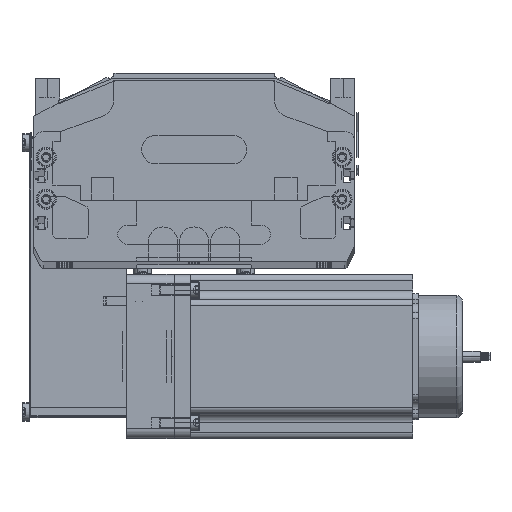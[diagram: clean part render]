
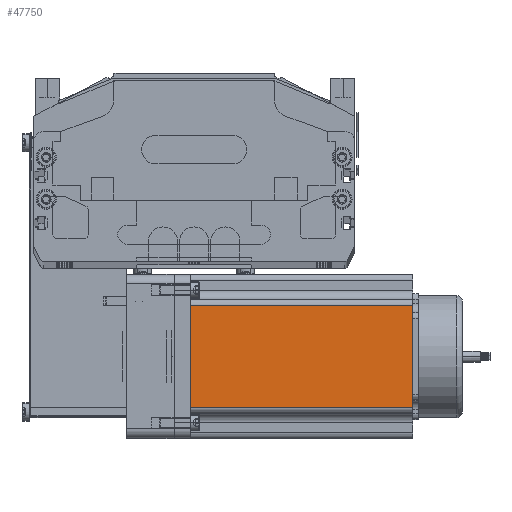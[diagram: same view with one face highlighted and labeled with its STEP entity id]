
A CAD part, top view. The second image highlights one B-rep face of the part: STEP entity #47750.
In plain terms, the highlighted planar face has unit normal (0, 0, 1) as drawn and (0, -1, 0) by its records, which use the part's own axes.
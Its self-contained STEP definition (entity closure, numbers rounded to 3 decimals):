
#25625 = AXIS2_PLACEMENT_3D ( 'NONE', #25675, #25674, #25672 ) ;
#25665 = LINE ( 'NONE', #25838, #25929 ) ;
#25672 = DIRECTION ( 'NONE',  ( 0., 0., 1. ) ) ;
#25674 = DIRECTION ( 'NONE',  ( 0., 1., 0. ) ) ;
#25675 = CARTESIAN_POINT ( 'NONE',  ( 0., 0., 116.5 ) ) ;
#25836 = PLANE ( 'NONE',  #25625 ) ;
#25838 = CARTESIAN_POINT ( 'NONE',  ( 69.74, 0., 116.5 ) ) ;
#25916 = FACE_OUTER_BOUND ( 'NONE', #47915, .T. ) ;
#25927 = DIRECTION ( 'NONE',  ( 0., 0., 1. ) ) ;
#25929 = VECTOR ( 'NONE', #25927, 1000. ) ;
#26404 = DIRECTION ( 'NONE',  ( 1., 0., 0. ) ) ;
#26417 = VECTOR ( 'NONE', #26404, 1000. ) ;
#26419 = CARTESIAN_POINT ( 'NONE',  ( 0., 0., 116.5 ) ) ;
#26420 = LINE ( 'NONE', #26419, #26417 ) ;
#26448 = CARTESIAN_POINT ( 'NONE',  ( 16.16, 0., 116.5 ) ) ;
#47750 = ADVANCED_FACE ( 'NONE', ( #25916 ), #25836, .F. ) ;
#47751 = ORIENTED_EDGE ( 'NONE', *, *, #47752, .T. ) ;
#47752 = EDGE_CURVE ( 'NONE', #47821, #47822, #25665, .T. ) ;
#47753 = ORIENTED_EDGE ( 'NONE', *, *, #47754, .F. ) ;
#47754 = EDGE_CURVE ( 'NONE', #47755, #47822, #26420, .T. ) ;
#47755 = VERTEX_POINT ( 'NONE', #26448 ) ;
#47819 = ORIENTED_EDGE ( 'NONE', *, *, #47823, .T. ) ;
#47821 = VERTEX_POINT ( 'NONE', #48522 ) ;
#47822 = VERTEX_POINT ( 'NONE', #48615 ) ;
#47823 = EDGE_CURVE ( 'NONE', #47911, #47821, #48566, .T. ) ;
#47911 = VERTEX_POINT ( 'NONE', #66630 ) ;
#47915 = EDGE_LOOP ( 'NONE', ( #47819, #47751, #47753, #47926 ) ) ;
#47924 = EDGE_CURVE ( 'NONE', #47755, #47911, #66614, .T. ) ;
#47926 = ORIENTED_EDGE ( 'NONE', *, *, #47924, .T. ) ;
#48520 = DIRECTION ( 'NONE',  ( 1., 0., 0. ) ) ;
#48521 = VECTOR ( 'NONE', #48520, 1000. ) ;
#48522 = CARTESIAN_POINT ( 'NONE',  ( 69.74, 0., 0. ) ) ;
#48565 = CARTESIAN_POINT ( 'NONE',  ( 0., 0., 0. ) ) ;
#48566 = LINE ( 'NONE', #48565, #48521 ) ;
#48615 = CARTESIAN_POINT ( 'NONE',  ( 69.74, 0., 116.5 ) ) ;
#66502 = DIRECTION ( 'NONE',  ( 0., 0., -1. ) ) ;
#66503 = CARTESIAN_POINT ( 'NONE',  ( 16.16, 0., 116.5 ) ) ;
#66572 = VECTOR ( 'NONE', #66502, 1000. ) ;
#66614 = LINE ( 'NONE', #66503, #66572 ) ;
#66630 = CARTESIAN_POINT ( 'NONE',  ( 16.16, 0., 0. ) ) ;
